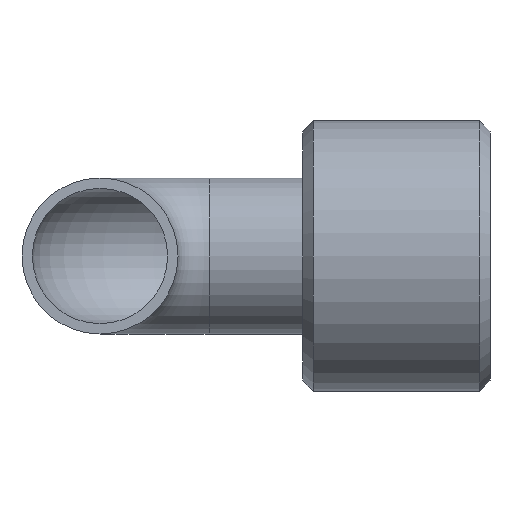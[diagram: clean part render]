
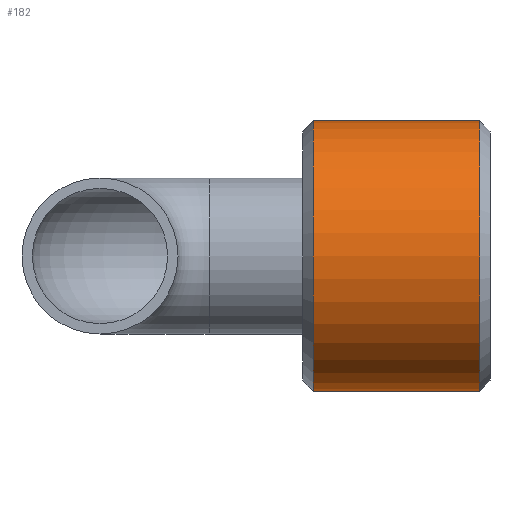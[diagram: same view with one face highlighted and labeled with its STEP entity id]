
A CAD part, front view. The second image highlights one B-rep face of the part: STEP entity #182.
In plain terms, the highlighted cylindrical face has radius 13 mm (diameter 26 mm), a full revolution.
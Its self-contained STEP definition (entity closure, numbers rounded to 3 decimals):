
#182 = ADVANCED_FACE( '', ( #243, #244 ), #245, .T. );
#243 = FACE_OUTER_BOUND( '', #342, .T. );
#244 = FACE_OUTER_BOUND( '', #343, .T. );
#245 = CYLINDRICAL_SURFACE( '', #344, 13. );
#342 = EDGE_LOOP( '', ( #466 ) );
#343 = EDGE_LOOP( '', ( #467 ) );
#344 = AXIS2_PLACEMENT_3D( '', #468, #469, #470 );
#466 = ORIENTED_EDGE( '', *, *, #580, .T. );
#467 = ORIENTED_EDGE( '', *, *, #581, .F. );
#468 = CARTESIAN_POINT( '', ( 18., 0., 0. ) );
#469 = DIRECTION( '', ( -1., 0., 0. ) );
#470 = DIRECTION( '', ( 0., 0., -1. ) );
#580 = EDGE_CURVE( '', #628, #628, #629, .T. );
#581 = EDGE_CURVE( '', #630, #630, #631, .T. );
#628 = VERTEX_POINT( '', #692 );
#629 = CIRCLE( '', #693, 13. );
#630 = VERTEX_POINT( '', #694 );
#631 = CIRCLE( '', #695, 13. );
#692 = CARTESIAN_POINT( '', ( 1., 0., -13. ) );
#693 = AXIS2_PLACEMENT_3D( '', #771, #772, #773 );
#694 = CARTESIAN_POINT( '', ( 17., 0., -13. ) );
#695 = AXIS2_PLACEMENT_3D( '', #774, #775, #776 );
#771 = CARTESIAN_POINT( '', ( 1., 0., 0. ) );
#772 = DIRECTION( '', ( 1., 0., 0. ) );
#773 = DIRECTION( '', ( 0., 0., -1. ) );
#774 = CARTESIAN_POINT( '', ( 17., 0., 0. ) );
#775 = DIRECTION( '', ( 1., 0., 0. ) );
#776 = DIRECTION( '', ( 0., 0., -1. ) );
